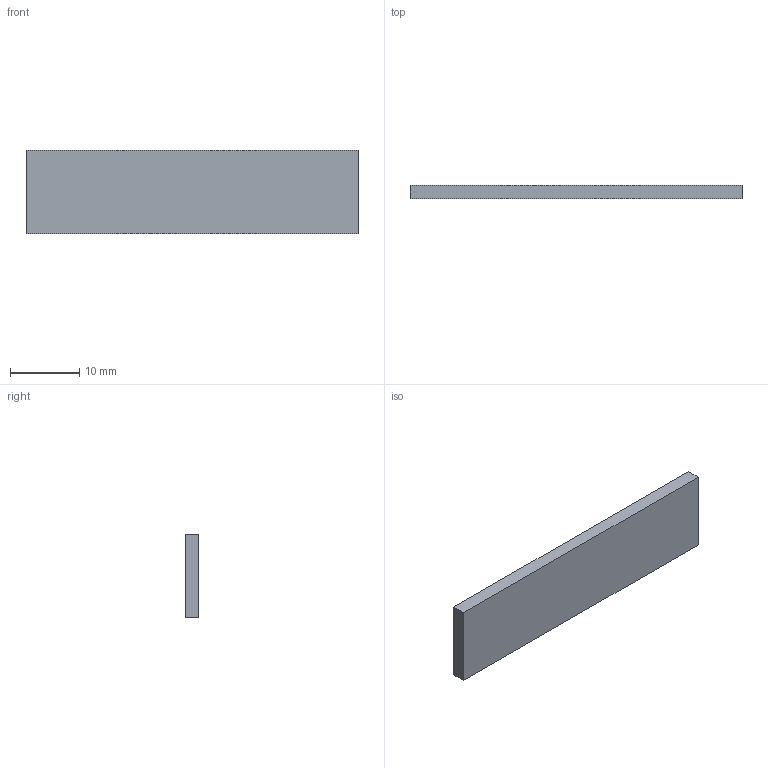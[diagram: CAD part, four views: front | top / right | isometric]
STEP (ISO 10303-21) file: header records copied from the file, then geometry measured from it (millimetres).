
FILE_DESCRIPTION(('Open CASCADE Model'),'2;1');
FILE_NAME('Open CASCADE Shape Model','2026-10-04T02:31:38',('Author'),( 'Open CASCADE'),'Open CASCADE STEP processor 8.0','Open CASCADE 8.0' ,'Unknown');
FILE_SCHEMA(('AUTOMOTIVE_DESIGN { 1 0 10303 214 1 1 1 1 }'));
Length unit declared in the file: millimetre
Products named in the file (1): Open CASCADE STEP translator 8.0 128
Bounding box: 48 x 2 x 12 mm (x, y, z)
Volume: 1152 mm3; surface area: 1392 mm2
Topology: 1 solids, 1 shells, 6 faces, 12 edges, 8 vertices
Faces by surface type: plane 6
Entity records: 322 total; most frequent: CARTESIAN_POINT 51, DIRECTION 50, LINE 36, VECTOR 36, ORIENTED_EDGE 24, PCURVE 24, DEFINITIONAL_REPRESENTATION 24, EDGE_CURVE 12
